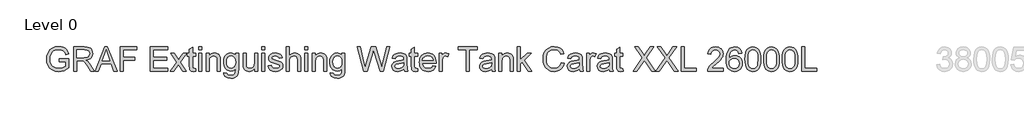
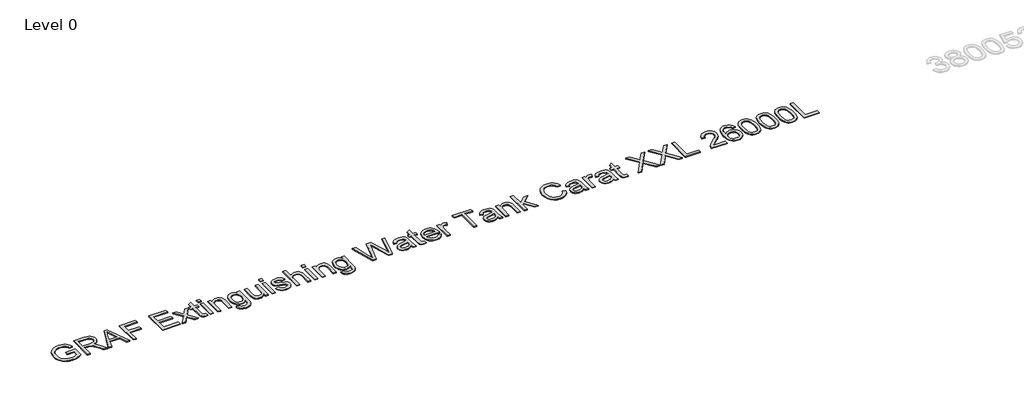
# One storey, part 13 of 37: 1 proxy.
"""IFC4 building model written with IfcOpenShell, lengths in millimetres."""

from ifc_helpers import new_model, si_unit, origin, origin_with_axes, place, context, project, spatial, polyline, outline, extrude, element, save

model = new_model("IFC4")

# Units and contexts
model_context = context("Model", 3, world=origin())
ifc_project = project(units=[si_unit("LENGTHUNIT", "METRE", prefix="MILLI")], contexts=[model_context])

# Site, building, storey
site = spatial("IfcSite", under=ifc_project)
building = spatial("IfcBuilding", under=site)
storey = spatial("IfcBuildingStorey", under=building, Name="Level 0", Elevation=0.0)

# Proxy
placement = place(None, origin())
element("IfcBuildingElementProxy", 1, Name="300mm Arial", ObjectType="300mm Arial", at=placement, inside=storey, context=model_context, shape_type="SweptSolid", body=[
    extrude(outline(polyline([(-17240.9940387, -9583.2545597), (-17240.9940387, -9545.5834434), (-17118.5629107, -9545.5834434), (-17118.5629107, -9658.2289103), (-17148.3153671, -9678.9222726), (-17179.0059225, -9693.7663111), (-17210.5610007, -9702.7058436), (-17242.9070251, -9705.6856877), (-17285.1674693, -9700.949207), (-17323.3628175, -9686.739765), (-17355.0926395, -9663.5540022), (-17377.9565055, -9631.8885595), (-17391.7796715, -9593.9047435), (-17396.3873935, -9551.7638609), (-17391.7980656, -9509.3194757), (-17378.0300819, -9469.8365406), (-17355.6536596, -9436.717964), (-17325.2390156, -9413.3666543), (-17288.1932987, -9399.5158972), (-17245.9236575, -9394.8989782), (-17214.8928112, -9397.5753197), (-17186.9889618, -9405.6043443), (-17163.4904994, -9418.4066377), (-17145.6758138, -9435.4027859), (-17132.4964413, -9457.4113262), (-17122.9039183, -9485.2507962), (-17157.6319786, -9495.0364573), (-17165.3850917, -9475.1800266), (-17174.8120678, -9460.1980323), (-17187.2832674, -9448.9040551), (-17204.169051, -9440.1116754), (-17224.3013932, -9434.4554897), (-17246.5122687, -9432.5700945), (-17272.5123287, -9434.6026425), (-17294.7415982, -9440.7002866), (-17313.1173039, -9450.0996716), (-17327.5566722, -9462.0374423), (-17346.9440533, -9491.0633317), (-17355.7732212, -9519.50061), (-17358.7162772, -9550.2187566), (-17355.175413, -9586.2436009), (-17344.5528204, -9615.8856927), (-17327.1703961, -9638.9334997), (-17303.3500369, -9655.1754898), (-17275.4737787, -9664.804801), (-17245.9236575, -9668.0145714), (-17219.831627, -9665.5957473), (-17194.3833899, -9658.3392749), (-17172.2828791, -9648.3420817), (-17156.234027, -9637.701095), (-17156.234027, -9583.2545597), (-17240.9940387, -9583.2545597)])), origin_with_axes(), (0.0, 0.0, 1.0), 10.0),
    extrude(outline(polyline([(-17057.3473467, -9700.9767982), (-17057.3473467, -9399.6078677), (-16927.4850024, -9399.6078677), (-16892.5821982, -9401.6404158), (-16867.1891434, -9407.7380598), (-16848.6294968, -9418.9952489), (-16834.2269167, -9436.5064318), (-16824.9838815, -9458.2206666), (-16821.9028698, -9482.087011), (-16827.0072325, -9511.7750881), (-16842.3203206, -9536.3863935), (-16853.9200997, -9546.4157764), (-16868.3019865, -9554.4310054), (-16905.4120827, -9564.4190016), (-16884.0013506, -9580.532233), (-16853.467145, -9619.3069952), (-16803.2144645, -9700.9767982), (-16846.9924219, -9700.9767982), (-16886.2086426, -9638.5104354), (-16914.5355562, -9597.1604991), (-16934.4379722, -9577.6259652), (-16952.3538253, -9570.4522663), (-16974.2060158, -9569.1278911), (-17019.6762304, -9569.1278911), (-17019.6762304, -9700.9767982), (-17057.3473467, -9700.9767982)]), holes=[polyline([(-17019.6762304, -9531.4567748), (-16935.3576771, -9531.4567748), (-16911.1418448, -9530.1232026), (-16892.3522719, -9526.1224859), (-16878.2072092, -9519.1879103), (-16867.9249074, -9509.0527613), (-16861.6617165, -9496.7930938), (-16859.5739861, -9483.4849626), (-16863.5563087, -9465.109257), (-16875.5032765, -9450.3020067), (-16896.058683, -9440.5347397), (-16925.8663217, -9437.278984), (-17019.6762304, -9437.278984), (-17019.6762304, -9531.4567748)])]), origin_with_axes(), (0.0, 0.0, 1.0), 10.0),
    extrude(outline(polyline([(-16791.0743586, -9700.9767982), (-16670.7769462, -9399.6078677), (-16638.6976362, -9399.6078677), (-16518.4002238, -9700.9767982), (-16558.2050557, -9700.9767982), (-16592.7123868, -9606.7990074), (-16716.835772, -9606.7990074), (-16751.2695268, -9700.9767982), (-16791.0743586, -9700.9767982)]), holes=[polyline([(-16703.003409, -9569.1278911), (-16606.4711735, -9569.1278911), (-16633.6208647, -9495.0364573), (-16654.7372912, -9437.278984), (-16673.499273, -9488.5617342), (-16703.003409, -9569.1278911)])]), origin_with_axes(), (0.0, 0.0, 1.0), 10.0),
    extrude(outline(polyline([(-16478.1539335, -9700.9767982), (-16478.1539335, -9399.6078677), (-16275.6716834, -9399.6078677), (-16275.6716834, -9437.278984), (-16440.4828172, -9437.278984), (-16440.4828172, -9526.7478853), (-16299.2161311, -9526.7478853), (-16299.2161311, -9564.4190016), (-16440.4828172, -9564.4190016), (-16440.4828172, -9700.9767982), (-16478.1539335, -9700.9767982)])), origin_with_axes(), (0.0, 0.0, 1.0), 10.0),
    extrude(outline(polyline([(-16106.15166, -9700.9767982), (-16106.15166, -9399.6078677), (-15889.5427413, -9399.6078677), (-15889.5427413, -9437.278984), (-16068.4805437, -9437.278984), (-16068.4805437, -9526.7478853), (-15898.9605203, -9526.7478853), (-15898.9605203, -9564.4190016), (-16068.4805437, -9564.4190016), (-16068.4805437, -9663.3056819), (-15884.8338517, -9663.3056819), (-15884.8338517, -9700.9767982), (-16106.15166, -9700.9767982)])), origin_with_axes(), (0.0, 0.0, 1.0), 10.0),
    extrude(outline(polyline([(-15856.5805145, -9700.9767982), (-15776.0879339, -9589.7292828), (-15851.8716249, -9479.6589899), (-15806.5485631, -9479.6589899), (-15769.9810928, -9532.6339972), (-15752.9113682, -9557.6499729), (-15738.122512, -9537.1957339), (-15696.4782702, -9479.6589899), (-15651.1552084, -9479.6589899), (-15730.7648721, -9589.7292828), (-15654.0982643, -9700.9767982), (-15699.4213261, -9700.9767982), (-15745.5537283, -9634.0958515), (-15754.0150142, -9621.8821692), (-15811.2574527, -9700.9767982), (-15856.5805145, -9700.9767982)])), origin_with_axes(), (0.0, 0.0, 1.0), 10.0),
    extrude(outline(polyline([(-15541.0849154, -9669.5596758), (-15536.3760259, -9702.0804442), (-15564.5557867, -9705.6856877), (-15582.6371868, -9704.1221892), (-15596.1200619, -9699.4316938), (-15605.6482056, -9692.2028126), (-15611.8654113, -9683.0241568), (-15615.2867139, -9667.2604133), (-15616.427148, -9640.276269), (-15616.427148, -9517.3301062), (-15644.6804853, -9517.3301062), (-15644.6804853, -9479.6589899), (-15616.427148, -9479.6589899), (-15616.427148, -9425.8746422), (-15578.7560317, -9403.7281461), (-15578.7560317, -9479.6589899), (-15541.0849154, -9479.6589899), (-15541.0849154, -9517.3301062), (-15578.7560317, -9517.3301062), (-15578.7560317, -9639.172623), (-15576.769469, -9658.5967923), (-15570.331534, -9665.4761856), (-15557.4924524, -9668.0145714), (-15541.0849154, -9669.5596758)])), origin_with_axes(), (0.0, 0.0, 1.0), 10.0),
    extrude(outline(polyline([(-15503.4137991, -9437.278984), (-15503.4137991, -9399.6078677), (-15465.7426828, -9399.6078677), (-15465.7426828, -9437.278984), (-15503.4137991, -9437.278984)])), origin_with_axes(), (0.0, 0.0, 1.0), 10.0),
    extrude(outline(polyline([(-15503.4137991, -9700.9767982), (-15503.4137991, -9479.6589899), (-15465.7426828, -9479.6589899), (-15465.7426828, -9700.9767982), (-15503.4137991, -9700.9767982)])), origin_with_axes(), (0.0, 0.0, 1.0), 10.0),
    extrude(outline(polyline([(-15409.2360084, -9700.9767982), (-15409.2360084, -9479.6589899), (-15371.564892, -9479.6589899), (-15371.564892, -9510.5610775), (-15358.4774901, -9494.981275), (-15342.7597318, -9483.8528446), (-15324.4116173, -9477.1757864), (-15303.4331465, -9474.9501003), (-15284.8643028, -9476.7435251), (-15267.8589576, -9482.1237992), (-15253.6771067, -9490.4195382), (-15243.5787459, -9500.9593574), (-15232.2847687, -9528.6608716), (-15230.2982059, -9565.0811892), (-15230.2982059, -9700.9767982), (-15267.9693222, -9700.9767982), (-15267.9693222, -9570.1579607), (-15272.3103297, -9536.8278519), (-15278.3160033, -9526.9042351), (-15287.6510089, -9519.2063044), (-15299.6163708, -9514.2674886), (-15313.5131132, -9512.6212166), (-15335.5768359, -9516.3184307), (-15354.3848029, -9527.4100729), (-15361.9010919, -9536.4645685), (-15367.2698698, -9548.8391991), (-15371.564892, -9583.5488653), (-15371.564892, -9700.9767982), (-15409.2360084, -9700.9767982)])), origin_with_axes(), (0.0, 0.0, 1.0), 10.0),
    extrude(outline(polyline([(-15187.9182001, -9719.8123563), (-15150.2470837, -9724.5212459), (-15146.0900172, -9736.2934697), (-15138.0334015, -9744.3868736), (-15122.1960816, -9750.6776557), (-15101.4659312, -9752.7745831), (-15079.3562233, -9750.4017442), (-15062.9118981, -9743.2832276), (-15051.5075562, -9731.8788858), (-15044.5177983, -9716.6485712), (-15041.9426244, -9672.7234609), (-15054.4782034, -9685.084296), (-15068.4669162, -9693.9134639), (-15083.908763, -9699.2109646), (-15100.8037436, -9700.9767982), (-15121.4580184, -9698.9212575), (-15139.6428852, -9692.7546356), (-15155.3583442, -9682.4769323), (-15168.6043953, -9668.0881478), (-15179.1143241, -9650.8252852), (-15186.621416, -9631.9253477), (-15191.1256712, -9611.3883353), (-15192.6270896, -9589.214248), (-15189.932354, -9558.7996041), (-15181.8481471, -9530.8313754), (-15168.6595776, -9507.1305779), (-15150.6517539, -9489.5182274), (-15128.4408785, -9478.5921321), (-15102.6431536, -9474.9501003), (-15085.0262045, -9477.0102395), (-15069.0371333, -9483.190657), (-15054.6759399, -9493.4913529), (-15041.9426244, -9507.9123271), (-15041.9426244, -9479.6589899), (-15004.2715081, -9479.6589899), (-15004.2715081, -9670.7368982), (-15006.846682, -9714.8551464), (-15014.5722039, -9743.908627), (-15027.8803351, -9763.1764465), (-15047.2033369, -9777.9377116), (-15072.118145, -9787.3187024), (-15102.2016952, -9790.4456994), (-15137.2516523, -9786.0403125), (-15164.851999, -9772.8241518), (-15175.2469646, -9762.9028343), (-15182.55632, -9750.7604292), (-15186.7800651, -9736.3969365), (-15187.9182001, -9719.8123563)]), holes=[polyline([(-15154.9559733, -9586.6390741), (-15150.9368625, -9621.1923905), (-15138.8795301, -9644.9483703), (-15120.7521448, -9658.716354), (-15098.5228752, -9663.3056819), (-15076.4591526, -9658.7439451), (-15058.2397968, -9645.0587349), (-15046.0169175, -9621.6062577), (-15041.9426244, -9587.7427201), (-15046.1364791, -9555.0839959), (-15058.7180433, -9531.5671394), (-15077.2041136, -9517.3576973), (-15099.1114864, -9512.6212166), (-15120.6233861, -9517.2841209), (-15138.6588009, -9531.2728338), (-15150.8816802, -9554.4402024), (-15154.9559733, -9586.6390741)])]), origin_with_axes(), (0.0, 0.0, 1.0), 10.0),
    extrude(outline(polyline([(-14806.4981475, -9700.9767982), (-14806.4981475, -9662.9377999), (-14820.1281754, -9681.6400008), (-14836.0022835, -9694.9987158), (-14854.1204717, -9703.0139447), (-14874.4827402, -9705.6856877), (-14892.8308547, -9703.8094895), (-14909.9097763, -9698.180895), (-14924.23878, -9689.7196091), (-14934.3371408, -9679.3453369), (-14945.5575416, -9651.6070344), (-14947.7648336, -9616.5846685), (-14947.7648336, -9479.6589899), (-14910.0937173, -9479.6589899), (-14910.0937173, -9598.8527563), (-14907.8128489, -9637.2596366), (-14902.3222101, -9650.0711271), (-14892.9136281, -9659.8108029), (-14880.2125022, -9665.9636293), (-14864.8442319, -9668.0145714), (-14848.5930448, -9665.917644), (-14833.3903213, -9659.6268619), (-14820.8547423, -9649.7216392), (-14812.6049886, -9636.78139), (-14808.0248577, -9619.0586749), (-14806.4981475, -9594.8060544), (-14806.4981475, -9479.6589899), (-14768.8270311, -9479.6589899), (-14768.8270311, -9700.9767982), (-14806.4981475, -9700.9767982)])), origin_with_axes(), (0.0, 0.0, 1.0), 10.0),
    extrude(outline(polyline([(-14717.0292462, -9437.278984), (-14717.0292462, -9399.6078677), (-14679.3581299, -9399.6078677), (-14679.3581299, -9437.278984), (-14717.0292462, -9437.278984)])), origin_with_axes(), (0.0, 0.0, 1.0), 10.0),
    extrude(outline(polyline([(-14717.0292462, -9700.9767982), (-14717.0292462, -9479.6589899), (-14679.3581299, -9479.6589899), (-14679.3581299, -9700.9767982), (-14717.0292462, -9700.9767982)])), origin_with_axes(), (0.0, 0.0, 1.0), 10.0),
    extrude(outline(polyline([(-14636.9781241, -9635.0523446), (-14599.3070078, -9630.3434551), (-14593.3657135, -9646.4566865), (-14581.8694012, -9658.3024867), (-14564.7444943, -9665.5865502), (-14541.9174165, -9668.0145714), (-14519.3662502, -9665.7888853), (-14503.5105362, -9659.1118271), (-14494.1295453, -9649.4365307), (-14491.0025484, -9638.2161298), (-14494.1479394, -9628.6144097), (-14503.5841126, -9621.293558), (-14542.3588749, -9610.5514038), (-14599.0862786, -9592.1205158), (-14613.4428734, -9582.8590866), (-14623.8447368, -9570.5994191), (-14630.1631101, -9556.1232626), (-14632.2692345, -9540.2123663), (-14630.5769774, -9525.6166481), (-14625.5002058, -9512.1429701), (-14617.4987724, -9500.324761), (-14607.0325297, -9490.6954497), (-14583.0834118, -9479.5486253), (-14550.673008, -9474.9501003), (-14526.153673, -9476.7987074), (-14504.8349114, -9482.3445284), (-14487.6916104, -9491.0449376), (-14475.6986574, -9502.357309), (-14467.7524063, -9517.118574), (-14462.7492112, -9536.1656643), (-14500.4203275, -9540.8745539), (-14505.1752023, -9529.0195566), (-14514.5837843, -9520.0892211), (-14528.738044, -9514.4882178), (-14547.729952, -9512.6212166), (-14569.3614134, -9514.4054443), (-14583.7823876, -9519.7581274), (-14591.8941856, -9527.4836493), (-14594.5981182, -9536.3863935), (-14590.1099579, -9547.349277), (-14576.0568657, -9555.6634101), (-14543.6096737, -9563.6832376), (-14488.3170098, -9581.4151497), (-14473.7120946, -9589.8948297), (-14462.6388466, -9601.5015067), (-14455.6582857, -9616.2719688), (-14453.3314321, -9634.2430043), (-14456.0629559, -9652.821045), (-14464.2575273, -9670.2954398), (-14477.6024467, -9685.2958281), (-14495.7850143, -9696.4518496), (-14517.7475694, -9703.3772282), (-14542.4324513, -9705.6856877), (-14580.4162673, -9701.2343156), (-14608.1361757, -9687.8801991), (-14626.64064, -9665.7704912), (-14636.9781241, -9635.0523446)])), origin_with_axes(), (0.0, 0.0, 1.0), 10.0),
    extrude(outline(polyline([(-14410.9514262, -9700.9767982), (-14410.9514262, -9399.6078677), (-14373.2803099, -9399.6078677), (-14373.2803099, -9510.4139247), (-14359.4433484, -9494.8985015), (-14343.9049326, -9483.8160564), (-14326.6650626, -9477.1665894), (-14307.7237384, -9474.9501003), (-14284.970237, -9477.3689245), (-14265.4173089, -9484.6253968), (-14250.0214474, -9496.1493003), (-14239.7391457, -9511.3704179), (-14233.9450043, -9532.2845093), (-14232.0136238, -9560.8873344), (-14232.0136238, -9700.9767982), (-14269.6847401, -9700.9767982), (-14269.6847401, -9564.7868836), (-14272.6829784, -9541.2056477), (-14281.6776931, -9525.0556281), (-14296.1722437, -9515.7298195), (-14315.6699895, -9512.6212166), (-14331.5900828, -9514.718144), (-14346.5352889, -9521.0089261), (-14358.914518, -9530.8865577), (-14367.1366806, -9543.7440334), (-14371.7444026, -9560.8321521), (-14373.2803099, -9583.4017125), (-14373.2803099, -9700.9767982), (-14410.9514262, -9700.9767982)])), origin_with_axes(), (0.0, 0.0, 1.0), 10.0),
    extrude(outline(polyline([(-14180.2158389, -9437.278984), (-14180.2158389, -9399.6078677), (-14142.5447226, -9399.6078677), (-14142.5447226, -9437.278984), (-14180.2158389, -9437.278984)])), origin_with_axes(), (0.0, 0.0, 1.0), 10.0),
    extrude(outline(polyline([(-14180.2158389, -9700.9767982), (-14180.2158389, -9479.6589899), (-14142.5447226, -9479.6589899), (-14142.5447226, -9700.9767982), (-14180.2158389, -9700.9767982)])), origin_with_axes(), (0.0, 0.0, 1.0), 10.0),
    extrude(outline(polyline([(-14086.0380481, -9700.9767982), (-14086.0380481, -9479.6589899), (-14048.3669318, -9479.6589899), (-14048.3669318, -9510.5610775), (-14035.2795298, -9494.981275), (-14019.5617716, -9483.8528446), (-14001.2136571, -9477.1757864), (-13980.2351863, -9474.9501003), (-13961.6663426, -9476.7435251), (-13944.6609974, -9482.1237992), (-13930.4791464, -9490.4195382), (-13920.3807857, -9500.9593574), (-13909.0868084, -9528.6608716), (-13907.1002456, -9565.0811892), (-13907.1002456, -9700.9767982), (-13944.771362, -9700.9767982), (-13944.771362, -9570.1579607), (-13949.1123695, -9536.8278519), (-13955.1180431, -9526.9042351), (-13964.4530487, -9519.2063044), (-13976.4184106, -9514.2674886), (-13990.315153, -9512.6212166), (-14012.3788756, -9516.3184307), (-14031.1868426, -9527.4100729), (-14038.7031316, -9536.4645685), (-14044.0719095, -9548.8391991), (-14048.3669318, -9583.5488653), (-14048.3669318, -9700.9767982), (-14086.0380481, -9700.9767982)])), origin_with_axes(), (0.0, 0.0, 1.0), 10.0),
    extrude(outline(polyline([(-13864.7202398, -9719.8123563), (-13827.0491235, -9724.5212459), (-13822.8920569, -9736.2934697), (-13814.8354413, -9744.3868736), (-13798.9981214, -9750.6776557), (-13778.2679709, -9752.7745831), (-13756.158263, -9750.4017442), (-13739.7139378, -9743.2832276), (-13728.309596, -9731.8788858), (-13721.3198381, -9716.6485712), (-13718.7446641, -9672.7234609), (-13731.2802431, -9685.084296), (-13745.268956, -9693.9134639), (-13760.7108027, -9699.2109646), (-13777.6057833, -9700.9767982), (-13798.2600581, -9698.9212575), (-13816.444925, -9692.7546356), (-13832.160384, -9682.4769323), (-13845.4064351, -9668.0881478), (-13855.9163638, -9650.8252852), (-13863.4234558, -9631.9253477), (-13867.9277109, -9611.3883353), (-13869.4291293, -9589.214248), (-13866.7343937, -9558.7996041), (-13858.6501869, -9530.8313754), (-13845.4616174, -9507.1305779), (-13827.4537937, -9489.5182274), (-13805.2429182, -9478.5921321), (-13779.4451933, -9474.9501003), (-13761.8282443, -9477.0102395), (-13745.8391731, -9483.190657), (-13731.4779797, -9493.4913529), (-13718.7446641, -9507.9123271), (-13718.7446641, -9479.6589899), (-13681.0735478, -9479.6589899), (-13681.0735478, -9670.7368982), (-13683.6487218, -9714.8551464), (-13691.3742437, -9743.908627), (-13704.6823748, -9763.1764465), (-13724.0053766, -9777.9377116), (-13748.9201848, -9787.3187024), (-13779.0037349, -9790.4456994), (-13814.053692, -9786.0403125), (-13841.6540387, -9772.8241518), (-13852.0490043, -9762.9028343), (-13859.3583597, -9750.7604292), (-13863.5821049, -9736.3969365), (-13864.7202398, -9719.8123563)]), holes=[polyline([(-13831.758013, -9586.6390741), (-13827.7389022, -9621.1923905), (-13815.6815698, -9644.9483703), (-13797.5541845, -9658.716354), (-13775.324915, -9663.3056819), (-13753.2611923, -9658.7439451), (-13735.0418365, -9645.0587349), (-13722.8189572, -9621.6062577), (-13718.7446641, -9587.7427201), (-13722.9385189, -9555.0839959), (-13735.5200831, -9531.5671394), (-13754.0061534, -9517.3576973), (-13775.9135262, -9512.6212166), (-13797.4254258, -9517.2841209), (-13815.4608406, -9531.2728338), (-13827.6837199, -9554.4402024), (-13831.758013, -9586.6390741)])]), origin_with_axes(), (0.0, 0.0, 1.0), 10.0),
    extrude(outline(polyline([(-13448.2042449, -9700.9767982), (-13530.3890826, -9399.6078677), (-13491.5407439, -9399.6078677), (-13443.8632373, -9597.6755339), (-13429.1479575, -9658.8175215), (-13413.4026081, -9604.7388682), (-13353.6585721, -9399.6078677), (-13297.6669324, -9399.6078677), (-13254.256857, -9548.3057702), (-13235.6604221, -9603.4880695), (-13221.9568178, -9658.8175215), (-13207.6829964, -9599.4413675), (-13159.5640314, -9399.6078677), (-13120.7156928, -9399.6078677), (-13202.9741069, -9700.9767982), (-13243.2203971, -9700.9767982), (-13315.472421, -9468.4753772), (-13325.5523877, -9436.0281853), (-13336.8831531, -9475.0972531), (-13402.7340303, -9700.9767982), (-13448.2042449, -9700.9767982)])), origin_with_axes(), (0.0, 0.0, 1.0), 10.0),
    extrude(outline(polyline([(-12946.4867798, -9672.7234609), (-12964.4854065, -9688.1561106), (-12983.017462, -9698.2544714), (-13002.5060107, -9703.8278836), (-13023.3741168, -9705.6856877), (-13054.8556186, -9701.2159215), (-13078.0781695, -9687.8066228), (-13092.3979762, -9667.4443543), (-13097.1712451, -9642.1156789), (-13095.3686233, -9626.4990883), (-13089.960758, -9612.3172373), (-13081.6190337, -9600.1771315), (-13071.0148352, -9590.685776), (-13044.6376962, -9578.324941), (-13012.0433514, -9572.6595583), (-12973.5261065, -9566.6998699), (-12946.707509, -9559.710112), (-12946.4867798, -9551.3224025), (-12949.0803479, -9534.5101954), (-12956.8610521, -9523.5105237), (-12974.2618705, -9515.3435434), (-12998.505294, -9512.6212166), (-13020.9460957, -9514.4330355), (-13036.6178687, -9519.868492), (-13047.3048406, -9529.9208675), (-13054.7912392, -9545.5834434), (-13092.4623555, -9540.8745539), (-13085.9232531, -9520.2731621), (-13076.1651831, -9504.0863544), (-13062.2776378, -9491.7071252), (-13043.3501092, -9482.5284694), (-13020.2011346, -9476.8446926), (-12993.6492516, -9474.9501003), (-12968.1826205, -9476.6239634), (-12947.995096, -9481.6455527), (-12932.7739785, -9489.1963306), (-12922.2065682, -9498.4577598), (-12915.1984162, -9509.9080869), (-12910.6550735, -9524.0255585), (-12908.8156635, -9556.9877853), (-12908.8156635, -9603.8559515), (-12906.9026772, -9669.3021584), (-12899.3978845, -9700.9767982), (-12937.0690008, -9700.9767982), (-12946.4867798, -9672.7234609)]), holes=[polyline([(-12946.4867798, -9597.3812283), (-13007.2608854, -9608.932723), (-13039.6712892, -9615.0395641), (-13054.3497808, -9624.972378), (-13059.5001288, -9639.4669286), (-13056.6950285, -9650.6689353), (-13048.2797279, -9659.8475911), (-13034.4381678, -9665.9728263), (-13015.3542893, -9668.0145714), (-12995.1207796, -9665.7612942), (-12977.2417146, -9659.0014625), (-12962.747164, -9649.0410575), (-12952.6671974, -9637.1860602), (-12948.1974311, -9624.972378), (-12946.707509, -9608.0498062), (-12946.4867798, -9597.3812283)])]), origin_with_axes(), (0.0, 0.0, 1.0), 10.0),
    extrude(outline(polyline([(-12776.9667565, -9669.5596758), (-12772.2578669, -9702.0804442), (-12800.4376278, -9705.6856877), (-12818.5190278, -9704.1221892), (-12832.0019029, -9699.4316938), (-12841.5300466, -9692.2028126), (-12847.7472523, -9683.0241568), (-12851.1685549, -9667.2604133), (-12852.3089891, -9640.276269), (-12852.3089891, -9517.3301062), (-12880.5623263, -9517.3301062), (-12880.5623263, -9479.6589899), (-12852.3089891, -9479.6589899), (-12852.3089891, -9425.8746422), (-12814.6378728, -9403.7281461), (-12814.6378728, -9479.6589899), (-12776.9667565, -9479.6589899), (-12776.9667565, -9517.3301062), (-12814.6378728, -9517.3301062), (-12814.6378728, -9639.172623), (-12812.65131, -9658.5967923), (-12806.2133751, -9665.4761856), (-12793.3742934, -9668.0145714), (-12776.9667565, -9669.5596758)])), origin_with_axes(), (0.0, 0.0, 1.0), 10.0),
    extrude(outline(polyline([(-12584.3437438, -9635.0523446), (-12547.4083915, -9639.7612342), (-12560.7165226, -9667.5915071), (-12581.9525108, -9688.3952339), (-12610.6381094, -9701.3630743), (-12646.2950718, -9705.6856877), (-12669.669374, -9703.8209859), (-12690.4960935, -9698.2268803), (-12708.7752301, -9688.9033709), (-12724.506784, -9675.8504579), (-12737.1573261, -9659.4314246), (-12746.1934276, -9640.0095545), (-12751.6150885, -9617.5848477), (-12753.4223088, -9592.157304), (-12751.5966944, -9565.8675369), (-12746.1198512, -9542.6955698), (-12736.9917792, -9522.6414025), (-12724.2124784, -9505.7050351), (-12708.5223113, -9492.2497512), (-12690.6616404, -9482.638834), (-12670.6304658, -9476.8722838), (-12648.4287873, -9474.9501003), (-12626.9421796, -9476.8676852), (-12607.5111124, -9482.6204399), (-12590.1355859, -9492.2083644), (-12574.8156001, -9505.6314587), (-12562.3099115, -9522.5310379), (-12553.3772768, -9542.548417), (-12548.017696, -9565.6835959), (-12546.2311691, -9591.9365748), (-12546.4518983, -9602.0901179), (-12715.7511925, -9602.0901179), (-12709.2304841, -9630.2882728), (-12694.0829429, -9651.0184232), (-12672.2215554, -9663.7655344), (-12645.5593078, -9668.0145714), (-12625.509739, -9666.0464027), (-12608.6239555, -9660.1418967), (-12594.901957, -9649.9331713), (-12584.3437438, -9635.0523446)]), holes=[polyline([(-12715.7511925, -9564.4190016), (-12583.9022854, -9564.4190016), (-12588.997451, -9544.5165856), (-12598.9854472, -9530.2795524), (-12620.9480023, -9517.0358006), (-12648.5759401, -9512.6212166), (-12673.9689949, -9516.1436868), (-12694.9658597, -9526.7110971), (-12709.5615779, -9543.1830134), (-12715.7511925, -9564.4190016)])]), origin_with_axes(), (0.0, 0.0, 1.0), 10.0),
    extrude(outline(polyline([(-12508.5600528, -9700.9767982), (-12508.5600528, -9479.6589899), (-12475.597826, -9479.6589899), (-12475.597826, -9512.4004875), (-12463.420932, -9493.4177765), (-12452.2005311, -9482.2341638), (-12440.9433421, -9476.7711162), (-12428.6560834, -9474.9501003), (-12409.8941017, -9477.8563681), (-12390.8378143, -9486.5751714), (-12403.4193786, -9520.3467385), (-12416.6631304, -9514.5525971), (-12429.9068822, -9512.6212166), (-12441.1548742, -9514.4790207), (-12451.2072497, -9520.052433), (-12459.3282448, -9528.918389), (-12464.7820954, -9540.6538247), (-12469.3622262, -9561.6966748), (-12470.8889365, -9584.6525113), (-12470.8889365, -9700.9767982), (-12508.5600528, -9700.9767982)])), origin_with_axes(), (0.0, 0.0, 1.0), 10.0),
    extrude(outline(polyline([(-12169.520006, -9700.9767982), (-12169.520006, -9437.278984), (-12268.4066863, -9437.278984), (-12268.4066863, -9399.6078677), (-12032.9622094, -9399.6078677), (-12032.9622094, -9437.278984), (-12131.8488897, -9437.278984), (-12131.8488897, -9700.9767982), (-12169.520006, -9700.9767982)])), origin_with_axes(), (0.0, 0.0, 1.0), 10.0),
    extrude(outline(polyline([(-11854.024407, -9672.7234609), (-11872.0230336, -9688.1561106), (-11890.5550891, -9698.2544714), (-11910.0436378, -9703.8278836), (-11930.911744, -9705.6856877), (-11962.3932457, -9701.2159215), (-11985.6157966, -9687.8066228), (-11999.9356033, -9667.4443543), (-12004.7088722, -9642.1156789), (-12002.9062504, -9626.4990883), (-11997.4983851, -9612.3172373), (-11989.1566608, -9600.1771315), (-11978.5524623, -9590.685776), (-11952.1753233, -9578.324941), (-11919.5809785, -9572.6595583), (-11881.0637336, -9566.6998699), (-11854.2451362, -9559.710112), (-11854.024407, -9551.3224025), (-11856.617975, -9534.5101954), (-11864.3986792, -9523.5105237), (-11881.7994976, -9515.3435434), (-11906.0429211, -9512.6212166), (-11928.4837228, -9514.4330355), (-11944.1554958, -9519.868492), (-11954.8424677, -9529.9208675), (-11962.3288663, -9545.5834434), (-11999.9999826, -9540.8745539), (-11993.4608802, -9520.2731621), (-11983.7028103, -9504.0863544), (-11969.8152649, -9491.7071252), (-11950.8877363, -9482.5284694), (-11927.7387617, -9476.8446926), (-11901.1868787, -9474.9501003), (-11875.7202476, -9476.6239634), (-11855.5327231, -9481.6455527), (-11840.3116056, -9489.1963306), (-11829.7441953, -9498.4577598), (-11822.7360433, -9509.9080869), (-11818.1927006, -9524.0255585), (-11816.3532907, -9556.9877853), (-11816.3532907, -9603.8559515), (-11814.4403043, -9669.3021584), (-11806.9355116, -9700.9767982), (-11844.6066279, -9700.9767982), (-11854.024407, -9672.7234609)]), holes=[polyline([(-11854.024407, -9597.3812283), (-11914.7985126, -9608.932723), (-11947.2089163, -9615.0395641), (-11961.8874079, -9624.972378), (-11967.0377559, -9639.4669286), (-11964.2326557, -9650.6689353), (-11955.817355, -9659.8475911), (-11941.975795, -9665.9728263), (-11922.8919165, -9668.0145714), (-11902.6584067, -9665.7612942), (-11884.7793418, -9659.0014625), (-11870.2847911, -9649.0410575), (-11860.2048245, -9637.1860602), (-11855.7350582, -9624.972378), (-11854.2451362, -9608.0498062), (-11854.024407, -9597.3812283)])]), origin_with_axes(), (0.0, 0.0, 1.0), 10.0),
    extrude(outline(polyline([(-11764.5555057, -9700.9767982), (-11764.5555057, -9479.6589899), (-11726.8843894, -9479.6589899), (-11726.8843894, -9510.5610775), (-11713.7969875, -9494.981275), (-11698.0792292, -9483.8528446), (-11679.7311147, -9477.1757864), (-11658.7526439, -9474.9501003), (-11640.1838002, -9476.7435251), (-11623.178455, -9482.1237992), (-11608.9966041, -9490.4195382), (-11598.8982433, -9500.9593574), (-11587.6042661, -9528.6608716), (-11585.6177033, -9565.0811892), (-11585.6177033, -9700.9767982), (-11623.2888196, -9700.9767982), (-11623.2888196, -9570.1579607), (-11627.6298271, -9536.8278519), (-11633.6355007, -9526.9042351), (-11642.9705063, -9519.2063044), (-11654.9358682, -9514.2674886), (-11668.8326106, -9512.6212166), (-11690.8963333, -9516.3184307), (-11709.7043003, -9527.4100729), (-11717.2205893, -9536.4645685), (-11722.5893671, -9548.8391991), (-11726.8843894, -9583.5488653), (-11726.8843894, -9700.9767982), (-11764.5555057, -9700.9767982)])), origin_with_axes(), (0.0, 0.0, 1.0), 10.0),
    extrude(outline(polyline([(-11533.8199184, -9700.9767982), (-11533.8199184, -9399.6078677), (-11496.1488021, -9399.6078677), (-11496.1488021, -9561.549522), (-11411.683096, -9479.6589899), (-11359.5910054, -9479.6589899), (-11445.0867811, -9562.5795916), (-11354.8821159, -9700.9767982), (-11398.8808025, -9700.9767982), (-11472.0893196, -9588.7727896), (-11496.1488021, -9612.0965081), (-11496.1488021, -9700.9767982), (-11533.8199184, -9700.9767982)])), origin_with_axes(), (0.0, 0.0, 1.0), 10.0),
    extrude(outline(polyline([(-10987.5887319, -9593.8495612), (-10949.9176156, -9603.5616459), (-10957.3718245, -9626.9888312), (-10967.3000399, -9647.4591649), (-10979.7022617, -9664.9726472), (-10994.5784898, -9679.5292779), (-11011.5930321, -9690.9727072), (-11030.4101962, -9699.1465853), (-11051.029982, -9704.0509121), (-11073.4523896, -9705.6856877), (-11117.1475736, -9700.7376749), (-11151.8480428, -9685.8936364), (-11178.445911, -9661.668607), (-11197.8332922, -9628.5776215), (-11209.6698954, -9589.6741005), (-11213.6154298, -9548.0114646), (-11209.1548606, -9504.0679603), (-11195.773153, -9466.1209325), (-11174.1692828, -9435.3751947), (-11145.0422259, -9413.0355606), (-11110.4981065, -9399.4331238), (-11072.6430492, -9394.8989782), (-11031.3390982, -9400.766696), (-11013.370362, -9408.1013433), (-10997.190452, -9418.3698495), (-10983.0660826, -9431.3009016), (-10971.2639684, -9446.6231867), (-10954.6265052, -9484.4414558), (-10992.2976215, -9493.4177765), (-11005.3574323, -9465.9461885), (-11023.1997091, -9447.1014333), (-11046.045181, -9436.2029292), (-11074.1145772, -9432.5700945), (-11106.4697987, -9436.5984023), (-11133.0492728, -9448.6833259), (-11153.2184032, -9467.5556722), (-11166.3425934, -9491.9462485), (-11173.5438834, -9519.5190041), (-11175.9443135, -9547.9378882), (-11173.102425, -9582.7395249), (-11164.5767598, -9612.8322721), (-11150.045421, -9637.0664986), (-11129.1865119, -9654.292573), (-11104.1797332, -9664.5840718), (-11077.2047859, -9668.0145714), (-11045.7600724, -9663.3424701), (-11019.5576773, -9649.3261661), (-10999.774823, -9626.1128122), (-10987.5887319, -9593.8495612)])), origin_with_axes(), (0.0, 0.0, 1.0), 10.0),
    extrude(outline(polyline([(-10761.5620341, -9672.7234609), (-10779.5606607, -9688.1561106), (-10798.0927162, -9698.2544714), (-10817.5812649, -9703.8278836), (-10838.4493711, -9705.6856877), (-10869.9308728, -9701.2159215), (-10893.1534238, -9687.8066228), (-10907.4732304, -9667.4443543), (-10912.2464993, -9642.1156789), (-10910.4438775, -9626.4990883), (-10905.0360122, -9612.3172373), (-10896.694288, -9600.1771315), (-10886.0900895, -9590.685776), (-10859.7129504, -9578.324941), (-10827.1186056, -9572.6595583), (-10788.6013607, -9566.6998699), (-10761.7827633, -9559.710112), (-10761.5620341, -9551.3224025), (-10764.1556022, -9534.5101954), (-10771.9363064, -9523.5105237), (-10789.3371247, -9515.3435434), (-10813.5805482, -9512.6212166), (-10836.0213499, -9514.4330355), (-10851.6931229, -9519.868492), (-10862.3800949, -9529.9208675), (-10869.8664935, -9545.5834434), (-10907.5376098, -9540.8745539), (-10900.9985073, -9520.2731621), (-10891.2404374, -9504.0863544), (-10877.3528921, -9491.7071252), (-10858.4253634, -9482.5284694), (-10835.2763889, -9476.8446926), (-10808.7245059, -9474.9501003), (-10783.2578748, -9476.6239634), (-10763.0703503, -9481.6455527), (-10747.8492327, -9489.1963306), (-10737.2818224, -9498.4577598), (-10730.2736704, -9509.9080869), (-10725.7303278, -9524.0255585), (-10723.8909178, -9556.9877853), (-10723.8909178, -9603.8559515), (-10721.9779314, -9669.3021584), (-10714.4731387, -9700.9767982), (-10752.144255, -9700.9767982), (-10761.5620341, -9672.7234609)]), holes=[polyline([(-10761.5620341, -9597.3812283), (-10822.3361397, -9608.932723), (-10854.7465435, -9615.0395641), (-10869.4250351, -9624.972378), (-10874.575383, -9639.4669286), (-10871.7702828, -9650.6689353), (-10863.3549822, -9659.8475911), (-10849.5134221, -9665.9728263), (-10830.4295436, -9668.0145714), (-10810.1960338, -9665.7612942), (-10792.3169689, -9659.0014625), (-10777.8224183, -9649.0410575), (-10767.7424516, -9637.1860602), (-10763.2726854, -9624.972378), (-10761.7827633, -9608.0498062), (-10761.5620341, -9597.3812283)])]), origin_with_axes(), (0.0, 0.0, 1.0), 10.0),
    extrude(outline(polyline([(-10672.0931329, -9700.9767982), (-10672.0931329, -9479.6589899), (-10639.1309061, -9479.6589899), (-10639.1309061, -9512.4004875), (-10626.9540121, -9493.4177765), (-10615.7336112, -9482.2341638), (-10604.4764221, -9476.7711162), (-10592.1891635, -9474.9501003), (-10573.4271818, -9477.8563681), (-10554.3708944, -9486.5751714), (-10566.9524586, -9520.3467385), (-10580.1962105, -9514.5525971), (-10593.4399623, -9512.6212166), (-10604.6879543, -9514.4790207), (-10614.7403298, -9520.052433), (-10622.8613249, -9528.918389), (-10628.3151754, -9540.6538247), (-10632.8953063, -9561.6966748), (-10634.4220166, -9584.6525113), (-10634.4220166, -9700.9767982), (-10672.0931329, -9700.9767982)])), origin_with_axes(), (0.0, 0.0, 1.0), 10.0),
    extrude(outline(polyline([(-10389.5597606, -9672.7234609), (-10407.5583872, -9688.1561106), (-10426.0904427, -9698.2544714), (-10445.5789914, -9703.8278836), (-10466.4470976, -9705.6856877), (-10497.9285993, -9701.2159215), (-10521.1511502, -9687.8066228), (-10535.4709569, -9667.4443543), (-10540.2442258, -9642.1156789), (-10538.441604, -9626.4990883), (-10533.0337387, -9612.3172373), (-10524.6920144, -9600.1771315), (-10514.0878159, -9590.685776), (-10487.7106769, -9578.324941), (-10455.1163321, -9572.6595583), (-10416.5990872, -9566.6998699), (-10389.7804898, -9559.710112), (-10389.5597606, -9551.3224025), (-10392.1533286, -9534.5101954), (-10399.9340328, -9523.5105237), (-10417.3348512, -9515.3435434), (-10441.5782747, -9512.6212166), (-10464.0190764, -9514.4330355), (-10479.6908494, -9519.868492), (-10490.3778213, -9529.9208675), (-10497.8642199, -9545.5834434), (-10535.5353362, -9540.8745539), (-10528.9962338, -9520.2731621), (-10519.2381639, -9504.0863544), (-10505.3506185, -9491.7071252), (-10486.4230899, -9482.5284694), (-10463.2741153, -9476.8446926), (-10436.7222323, -9474.9501003), (-10411.2556012, -9476.6239634), (-10391.0680767, -9481.6455527), (-10375.8469592, -9489.1963306), (-10365.2795489, -9498.4577598), (-10358.2713969, -9509.9080869), (-10353.7280542, -9524.0255585), (-10351.8886443, -9556.9877853), (-10351.8886443, -9603.8559515), (-10349.9756579, -9669.3021584), (-10342.4708652, -9700.9767982), (-10380.1419815, -9700.9767982), (-10389.5597606, -9672.7234609)]), holes=[polyline([(-10389.5597606, -9597.3812283), (-10450.3338662, -9608.932723), (-10482.7442699, -9615.0395641), (-10497.4227615, -9624.972378), (-10502.5731095, -9639.4669286), (-10499.7680093, -9650.6689353), (-10491.3527086, -9659.8475911), (-10477.5111486, -9665.9728263), (-10458.4272701, -9668.0145714), (-10438.1937603, -9665.7612942), (-10420.3146954, -9659.0014625), (-10405.8201448, -9649.0410575), (-10395.7401781, -9637.1860602), (-10391.2704118, -9624.972378), (-10389.7804898, -9608.0498062), (-10389.5597606, -9597.3812283)])]), origin_with_axes(), (0.0, 0.0, 1.0), 10.0),
    extrude(outline(polyline([(-10220.0397372, -9669.5596758), (-10215.3308476, -9702.0804442), (-10243.5106085, -9705.6856877), (-10261.5920085, -9704.1221892), (-10275.0748837, -9699.4316938), (-10284.6030273, -9692.2028126), (-10290.8202331, -9683.0241568), (-10294.2415356, -9667.2604133), (-10295.3819698, -9640.276269), (-10295.3819698, -9517.3301062), (-10323.635307, -9517.3301062), (-10323.635307, -9479.6589899), (-10295.3819698, -9479.6589899), (-10295.3819698, -9425.8746422), (-10257.7108535, -9403.7281461), (-10257.7108535, -9479.6589899), (-10220.0397372, -9479.6589899), (-10220.0397372, -9517.3301062), (-10257.7108535, -9517.3301062), (-10257.7108535, -9639.172623), (-10255.7242907, -9658.5967923), (-10249.2863558, -9665.4761856), (-10236.4472742, -9668.0145714), (-10220.0397372, -9669.5596758)])), origin_with_axes(), (0.0, 0.0, 1.0), 10.0),
    extrude(outline(polyline([(-10092.8997197, -9700.9767982), (-9976.7225856, -9536.7542755), (-10074.0641615, -9399.6078677), (-10028.8882525, -9399.6078677), (-9974.0738352, -9476.7895103), (-9955.6061591, -9506.8822575), (-9933.9746977, -9476.2744755), (-9879.7488916, -9399.6078677), (-9833.910795, -9399.6078677), (-9931.252371, -9537.1957339), (-9815.0752369, -9700.9767982), (-9860.2511459, -9700.9767982), (-9937.6535177, -9591.789422), (-9953.7667491, -9569.1278911), (-9971.4986612, -9593.996714), (-10047.0616231, -9700.9767982), (-10092.8997197, -9700.9767982)])), origin_with_axes(), (0.0, 0.0, 1.0), 10.0),
    extrude(outline(polyline([(-9810.3663474, -9700.9767982), (-9694.1892133, -9536.7542755), (-9791.5307892, -9399.6078677), (-9746.3548802, -9399.6078677), (-9691.5404629, -9476.7895103), (-9673.0727868, -9506.8822575), (-9651.4413254, -9476.2744755), (-9597.2155194, -9399.6078677), (-9551.3774228, -9399.6078677), (-9648.7189987, -9537.1957339), (-9532.5418646, -9700.9767982), (-9577.7177736, -9700.9767982), (-9655.1201454, -9591.789422), (-9671.2333768, -9569.1278911), (-9688.9652889, -9593.996714), (-9764.5282508, -9700.9767982), (-9810.3663474, -9700.9767982)])), origin_with_axes(), (0.0, 0.0, 1.0), 10.0),
    extrude(outline(polyline([(-9494.8707483, -9700.9767982), (-9494.8707483, -9399.6078677), (-9457.199632, -9399.6078677), (-9457.199632, -9663.3056819), (-9306.5151668, -9663.3056819), (-9306.5151668, -9700.9767982), (-9494.8707483, -9700.9767982)])), origin_with_axes(), (0.0, 0.0, 1.0), 10.0),
    extrude(outline(polyline([(-8967.47512, -9663.3056819), (-8967.47512, -9700.9767982), (-9165.2484806, -9700.9767982), (-9161.2017787, -9675.0043293), (-9151.9127583, -9654.7064402), (-9138.3195186, -9635.0155564), (-9118.6562259, -9614.4049677), (-9091.1570468, -9591.3479636), (-9050.5060863, -9555.2403458), (-9026.11551, -9528.5872952), (-9013.9202219, -9506.9558339), (-9009.8551259, -9485.9129838), (-9013.6902957, -9467.0498345), (-9025.1958051, -9451.3688645), (-9042.881732, -9440.8014541), (-9065.2581543, -9437.278984), (-9088.7566168, -9440.7186807), (-9107.0127608, -9451.0377707), (-9118.7941817, -9467.4269135), (-9122.8684748, -9489.076769), (-9160.5395911, -9484.3678794), (-9151.4069205, -9447.9291678), (-9142.8605619, -9433.3932305), (-9131.6608545, -9421.3129054), (-9118.0653155, -9411.8169514), (-9102.3314624, -9405.0341272), (-9064.4488139, -9399.6078677), (-9044.2589902, -9401.1161839), (-9026.290254, -9405.6411325), (-9010.5426053, -9413.1827134), (-8997.0160442, -9423.7409266), (-8986.1520291, -9436.534023), (-8978.3920182, -9450.7802533), (-8973.7360117, -9466.4796174), (-8972.1840095, -9483.6321154), (-8973.8578726, -9501.6491361), (-8978.8794619, -9519.3534572), (-8987.7914032, -9537.3612808), (-9001.1363226, -9556.2888095), (-9022.4090989, -9578.885961), (-9055.1046113, -9607.9026534), (-9098.4411103, -9644.1390299), (-9115.4372585, -9663.3056819), (-8967.47512, -9663.3056819)])), origin_with_axes(), (0.0, 0.0, 1.0), 10.0),
    extrude(outline(polyline([(-8736.7395326, -9479.6589899), (-8774.4106489, -9484.3678794), (-8780.4807019, -9465.6978682), (-8788.6844704, -9452.950757), (-8805.772589, -9441.1969273), (-8826.4291631, -9437.278984), (-8843.940346, -9439.5598524), (-8860.4214594, -9446.4024575), (-8874.5757192, -9460.8142347), (-8886.1364109, -9480.6522713), (-8893.9447062, -9508.7124704), (-8896.8417769, -9547.7907354), (-8881.731024, -9530.1599908), (-8863.6220328, -9517.7347764), (-8843.5264788, -9510.3679394), (-8822.4560375, -9507.9123271), (-8804.3562433, -9509.5907887), (-8787.6544008, -9514.6261735), (-8772.3505098, -9523.0184815), (-8758.4445703, -9534.7677128), (-8746.8884772, -9549.1748914), (-8738.6341249, -9565.5410417), (-8733.6815135, -9583.8661635), (-8732.0306431, -9604.150257), (-8735.139246, -9631.1252043), (-8744.4650545, -9656.131983), (-8759.2355166, -9677.34038), (-8778.6780801, -9692.9201825), (-8801.9098281, -9702.4943114), (-8828.0478438, -9705.6856877), (-8850.5047404, -9703.5703662), (-8870.7865346, -9697.2244018), (-8888.8932266, -9686.6477945), (-8904.8248162, -9671.8405442), (-8917.8133499, -9652.1772515), (-8927.090874, -9627.0325171), (-8932.6573884, -9596.406341), (-8934.5128932, -9560.2987232), (-8932.4527541, -9519.8179082), (-8926.2723365, -9485.2691903), (-8915.9716407, -9456.6525696), (-8901.5506665, -9433.9680461), (-8885.9202802, -9418.9354681), (-8867.7974934, -9408.1979123), (-8847.1823061, -9401.7553789), (-8824.0747183, -9399.6078677), (-8791.020521, -9404.9237626), (-8764.5514115, -9420.8714471), (-8746.0101589, -9446.2001224), (-8736.7395326, -9479.6589899)]), holes=[polyline([(-8896.8417769, -9603.5616459), (-8894.6620761, -9620.2542914), (-8888.1229736, -9636.1927788), (-8877.9694306, -9649.8963831), (-8864.946408, -9659.8843793), (-8849.2286497, -9665.9820234), (-8830.9908998, -9668.0145714), (-8806.131274, -9663.8023226), (-8786.587543, -9651.165576), (-8773.9232053, -9631.2999483), (-8769.7017594, -9605.4010558), (-8773.868023, -9580.54143), (-8786.3668138, -9561.5863102), (-8806.2416386, -9549.5841601), (-8832.5360042, -9545.5834434), (-8857.3588418, -9549.5841601), (-8878.1165834, -9561.5863102), (-8892.1604785, -9580.0815775), (-8896.8417769, -9603.5616459)])]), origin_with_axes(), (0.0, 0.0, 1.0), 10.0),
    extrude(outline(polyline([(-8699.0684163, -9552.7203541), (-8696.3001043, -9504.4818275), (-8687.9951683, -9466.0105679), (-8674.2363817, -9436.717964), (-8655.1065179, -9416.0154047), (-8630.4676213, -9403.709752), (-8600.181736, -9399.6078677), (-8576.9683821, -9402.0358889), (-8556.1830494, -9409.3199524), (-8538.8006251, -9421.1749497), (-8525.7959966, -9437.3157722), (-8515.9735473, -9457.6044643), (-8508.1376608, -9481.9030701), (-8503.005707, -9512.7591724), (-8501.2950557, -9552.7203541), (-8504.0357766, -9600.6829692), (-8512.2579392, -9639.0622584), (-8525.9339523, -9668.3824534), (-8545.0362249, -9689.1677861), (-8569.7303039, -9701.5562123), (-8600.181736, -9705.6856877), (-8620.9302806, -9703.892263), (-8639.3243803, -9698.5119888), (-8655.3640353, -9689.5448652), (-8669.0492455, -9676.9908921), (-8682.1826327, -9654.2971715), (-8691.5636236, -9626.0208417), (-8697.1922182, -9592.1619025), (-8699.0684163, -9552.7203541)]), holes=[polyline([(-8661.3973, -9552.6467777), (-8656.9827161, -9611.9033701), (-8651.4644862, -9632.1713688), (-8643.7389643, -9646.1991691), (-8624.0204893, -9662.5607208), (-8600.181736, -9668.0145714), (-8576.3429827, -9662.5423267), (-8556.6245078, -9646.1255927), (-8548.8989859, -9632.0747997), (-8543.380756, -9611.8113996), (-8538.966172, -9552.6467777), (-8543.2336032, -9494.7237576), (-8548.5678921, -9474.5224375), (-8556.0358966, -9460.1612441), (-8575.7175833, -9442.9995491), (-8600.6231944, -9437.278984), (-8624.2044303, -9442.3189674), (-8643.1503531, -9457.4389174), (-8651.1333924, -9473.0739022), (-8656.8355633, -9494.1535405), (-8661.3973, -9552.6467777)])]), origin_with_axes(), (0.0, 0.0, 1.0), 10.0),
    extrude(outline(polyline([(-8468.332829, -9552.7203541), (-8465.5645169, -9504.4818275), (-8457.2595809, -9466.0105679), (-8443.5007943, -9436.717964), (-8424.3709305, -9416.0154047), (-8399.7320339, -9403.709752), (-8369.4461486, -9399.6078677), (-8346.2327948, -9402.0358889), (-8325.447462, -9409.3199524), (-8308.0650378, -9421.1749497), (-8295.0604092, -9437.3157722), (-8285.23796, -9457.6044643), (-8277.4020735, -9481.9030701), (-8272.2701196, -9512.7591724), (-8270.5594683, -9552.7203541), (-8273.3001892, -9600.6829692), (-8281.5223518, -9639.0622584), (-8295.198365, -9668.3824534), (-8314.3006376, -9689.1677861), (-8338.9947165, -9701.5562123), (-8369.4461486, -9705.6856877), (-8390.1946932, -9703.892263), (-8408.5887929, -9698.5119888), (-8424.6284479, -9689.5448652), (-8438.3136581, -9676.9908921), (-8451.4470454, -9654.2971715), (-8460.8280363, -9626.0208417), (-8466.4566308, -9592.1619025), (-8468.332829, -9552.7203541)]), holes=[polyline([(-8430.6617126, -9552.6467777), (-8426.2471287, -9611.9033701), (-8420.7288988, -9632.1713688), (-8413.0033769, -9646.1991691), (-8393.2849019, -9662.5607208), (-8369.4461486, -9668.0145714), (-8345.6073954, -9662.5423267), (-8325.8889204, -9646.1255927), (-8318.1633985, -9632.0747997), (-8312.6451686, -9611.8113996), (-8308.2305847, -9552.6467777), (-8312.4980158, -9494.7237576), (-8317.8323047, -9474.5224375), (-8325.3003092, -9460.1612441), (-8344.981996, -9442.9995491), (-8369.887607, -9437.278984), (-8393.4688429, -9442.3189674), (-8412.4147657, -9457.4389174), (-8420.397805, -9473.0739022), (-8426.0999759, -9494.1535405), (-8430.6617126, -9552.6467777)])]), origin_with_axes(), (0.0, 0.0, 1.0), 10.0),
    extrude(outline(polyline([(-8237.5972416, -9552.7203541), (-8234.8289296, -9504.4818275), (-8226.5239935, -9466.0105679), (-8212.7652069, -9436.717964), (-8193.6353432, -9416.0154047), (-8168.9964465, -9403.709752), (-8138.7105613, -9399.6078677), (-8115.4972074, -9402.0358889), (-8094.7118747, -9409.3199524), (-8077.3294504, -9421.1749497), (-8064.3248218, -9437.3157722), (-8054.5023726, -9457.6044643), (-8046.6664861, -9481.9030701), (-8041.5345322, -9512.7591724), (-8039.823881, -9552.7203541), (-8042.5646018, -9600.6829692), (-8050.7867644, -9639.0622584), (-8064.4627776, -9668.3824534), (-8083.5650502, -9689.1677861), (-8108.2591291, -9701.5562123), (-8138.7105613, -9705.6856877), (-8159.4591058, -9703.892263), (-8177.8532056, -9698.5119888), (-8193.8928606, -9689.5448652), (-8207.5780708, -9676.9908921), (-8220.711458, -9654.2971715), (-8230.0924489, -9626.0208417), (-8235.7210434, -9592.1619025), (-8237.5972416, -9552.7203541)]), holes=[polyline([(-8199.9261253, -9552.6467777), (-8195.5115413, -9611.9033701), (-8189.9933114, -9632.1713688), (-8182.2677895, -9646.1991691), (-8162.5493146, -9662.5607208), (-8138.7105613, -9668.0145714), (-8114.871808, -9662.5423267), (-8095.153333, -9646.1255927), (-8087.4278111, -9632.0747997), (-8081.9095812, -9611.8113996), (-8077.4949973, -9552.6467777), (-8081.7624284, -9494.7237576), (-8087.0967174, -9474.5224375), (-8094.5647219, -9460.1612441), (-8114.2464086, -9442.9995491), (-8139.1520197, -9437.278984), (-8162.7332556, -9442.3189674), (-8181.6791783, -9457.4389174), (-8189.6622176, -9473.0739022), (-8195.3643885, -9494.1535405), (-8199.9261253, -9552.6467777)])]), origin_with_axes(), (0.0, 0.0, 1.0), 10.0),
    extrude(outline(polyline([(-7992.7349856, -9700.9767982), (-7992.7349856, -9399.6078677), (-7955.0638693, -9399.6078677), (-7955.0638693, -9663.3056819), (-7804.3794041, -9663.3056819), (-7804.3794041, -9700.9767982), (-7992.7349856, -9700.9767982)])), origin_with_axes(), (0.0, 0.0, 1.0), 10.0),
])

save(model, "model.ifc")
